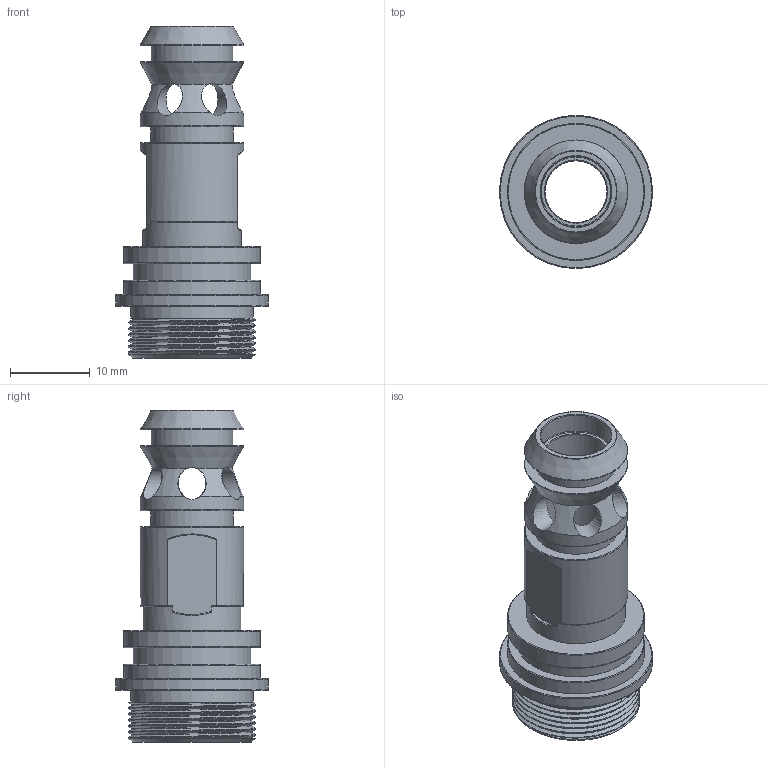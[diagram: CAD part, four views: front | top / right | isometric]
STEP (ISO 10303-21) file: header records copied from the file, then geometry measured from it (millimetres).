
FILE_DESCRIPTION(/* description */ (''),/* implementation_level */ '2;1');
FILE_NAME(/* name */ 'insideFront.step',/* time_stamp */ '2024-01-13T10:48:50+04:00',/* author */ (''),/* organization */ (''),/* preprocessor_version */ 'ST-DEVELOPER v20',/* originating_system */ 'Autodesk Translation Framework v12.14.0.127',/* authorisation */ '');
FILE_SCHEMA (('AUTOMOTIVE_DESIGN { 1 0 10303 214 3 1 1 }'));
Length unit declared in the file: millimetre
Products named in the file (1): insideFront
Bounding box: 19.14 x 19.14 x 41.56 mm (x, y, z)
Volume: 2715.1 mm3; surface area: 3898.7 mm2
Topology: 1 solids, 1 shells, 106 faces, 294 edges, 194 vertices
Faces by surface type: bspline 39, cylinder 34, plane 20, cone 10, torus 3
Full cylindrical faces by diameter (mm): 7.763 x1, 8.822 x1, 10.057 x1, 10.251 x1, 10.322 x1, 12.351 x1, 12.924 x2, 12.933 x2, 13.997 x1, 14.733 x1, 15.044 x5, 15.356 x1, 15.908 x5, 17.159 x2, 19.144 x1
Entity records: 7123 total; most frequent: CARTESIAN_POINT 4631, ORIENTED_EDGE 588, DIRECTION 425, EDGE_CURVE 294, VERTEX_POINT 194, AXIS2_PLACEMENT_3D 186, EDGE_LOOP 124, B_SPLINE_CURVE_WITH_KNOTS 110
